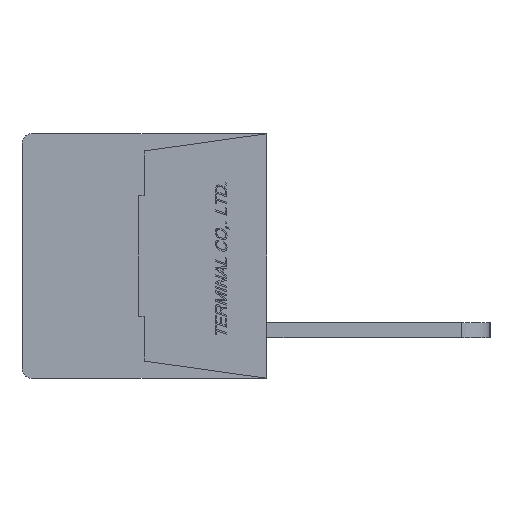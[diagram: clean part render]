
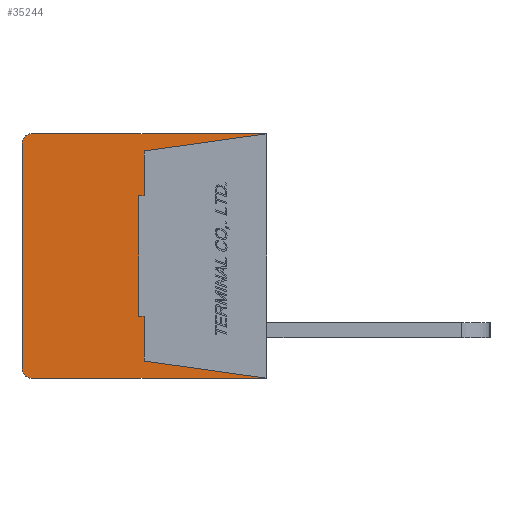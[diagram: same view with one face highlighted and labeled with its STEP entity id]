
A CAD part, left-side view. The second image highlights one B-rep face of the part: STEP entity #35244.
In plain terms, the highlighted planar face has unit normal (-1, 0, 0).
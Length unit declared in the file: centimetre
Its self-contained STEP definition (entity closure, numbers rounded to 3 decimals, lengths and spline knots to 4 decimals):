
#1820=CIRCLE('',#60349,0.05);
#1821=CIRCLE('',#60352,0.05);
#3158=VERTEX_POINT('',#49011);
#3159=VERTEX_POINT('',#49013);
#3160=VERTEX_POINT('',#49017);
#3161=VERTEX_POINT('',#49021);
#3162=VERTEX_POINT('',#49025);
#3163=VERTEX_POINT('',#49029);
#3164=VERTEX_POINT('',#49033);
#3165=VERTEX_POINT('',#49035);
#3166=VERTEX_POINT('',#49037);
#3167=VERTEX_POINT('',#49039);
#3168=VERTEX_POINT('',#49041);
#3169=VERTEX_POINT('',#49043);
#6868=VECTOR('',#40878,1.);
#6872=VECTOR('',#40887,1.);
#6875=VECTOR('',#40895,1.);
#6876=VECTOR('',#40897,1.);
#6877=VECTOR('',#40898,1.);
#6878=VECTOR('',#40899,1.);
#6879=VECTOR('',#40900,1.);
#6880=VECTOR('',#40901,1.);
#6881=VECTOR('',#40902,1.);
#6882=VECTOR('',#40903,1.);
#10988=LINE('',#49012,#6868);
#10992=LINE('',#49022,#6872);
#10995=LINE('',#49030,#6875);
#10996=LINE('',#49032,#6876);
#10997=LINE('',#49034,#6877);
#10998=LINE('',#49036,#6878);
#10999=LINE('',#49038,#6879);
#11000=LINE('',#49040,#6880);
#11001=LINE('',#49042,#6881);
#11002=LINE('',#49044,#6882);
#15592=EDGE_CURVE('',#3159,#3158,#10988,.T.);
#15595=EDGE_CURVE('',#3160,#3158,#1820,.T.);
#15597=EDGE_CURVE('',#3160,#3161,#10992,.T.);
#15599=EDGE_CURVE('',#3162,#3161,#1821,.T.);
#15601=EDGE_CURVE('',#3162,#3163,#10995,.T.);
#15602=EDGE_CURVE('',#3164,#3159,#10996,.T.);
#15603=EDGE_CURVE('',#3163,#3165,#10997,.T.);
#15604=EDGE_CURVE('',#3165,#3166,#10998,.T.);
#15605=EDGE_CURVE('',#3166,#3167,#10999,.T.);
#15606=EDGE_CURVE('',#3167,#3168,#11000,.T.);
#15607=EDGE_CURVE('',#3168,#3169,#11001,.T.);
#15608=EDGE_CURVE('',#3169,#3164,#11002,.T.);
#22725=ORIENTED_EDGE('',*,*,#15602,.T.);
#22726=ORIENTED_EDGE('',*,*,#15592,.T.);
#22727=ORIENTED_EDGE('',*,*,#15595,.F.);
#22728=ORIENTED_EDGE('',*,*,#15597,.T.);
#22729=ORIENTED_EDGE('',*,*,#15599,.F.);
#22730=ORIENTED_EDGE('',*,*,#15601,.T.);
#22731=ORIENTED_EDGE('',*,*,#15603,.T.);
#22732=ORIENTED_EDGE('',*,*,#15604,.T.);
#22733=ORIENTED_EDGE('',*,*,#15605,.T.);
#22734=ORIENTED_EDGE('',*,*,#15606,.T.);
#22735=ORIENTED_EDGE('',*,*,#15607,.T.);
#22736=ORIENTED_EDGE('',*,*,#15608,.T.);
#30658=EDGE_LOOP('',(#22725,#22726,#22727,#22728,#22729,#22730,#22731,#22732,
#22733,#22734,#22735,#22736));
#33018=FACE_BOUND('',#30658,.T.);
#35244=ADVANCED_FACE('',(#33018),#37162,.F.);
#37162=PLANE('',#60354);
#40878=DIRECTION('',(0.,1.,0.));
#40883=DIRECTION('',(1.,0.,0.));
#40884=DIRECTION('',(0.,0.,-0.05));
#40887=DIRECTION('',(0.,0.,-1.));
#40891=DIRECTION('',(1.,0.,0.));
#40892=DIRECTION('',(0.,0.,-0.05));
#40895=DIRECTION('',(0.,-1.,0.));
#40896=DIRECTION('',(1.,0.,0.));
#40897=DIRECTION('',(0.,-0.99,0.139));
#40898=DIRECTION('',(0.,0.99,0.139));
#40899=DIRECTION('',(0.,0.,1.));
#40900=DIRECTION('',(0.,1.,0.));
#40901=DIRECTION('',(0.,0.,1.));
#40902=DIRECTION('',(0.,-1.,0.));
#40903=DIRECTION('',(0.,0.,1.));
#49011=CARTESIAN_POINT('',(-1.,1.23,0.64));
#49012=CARTESIAN_POINT('',(-1.,0.,0.64));
#49013=CARTESIAN_POINT('',(-1.,0.,0.64));
#49017=CARTESIAN_POINT('',(-1.,1.28,0.59));
#49018=CARTESIAN_POINT('',(-1.,1.23,0.59));
#49021=CARTESIAN_POINT('',(-1.,1.28,-0.59));
#49022=CARTESIAN_POINT('',(-1.,1.28,0.59));
#49025=CARTESIAN_POINT('',(-1.,1.23,-0.64));
#49026=CARTESIAN_POINT('',(-1.,1.23,-0.59));
#49029=CARTESIAN_POINT('',(-1.,0.,-0.64));
#49030=CARTESIAN_POINT('',(-1.,1.23,-0.64));
#49031=CARTESIAN_POINT('',(-1.,0.6345,0.));
#49032=CARTESIAN_POINT('',(-1.,0.64,0.55));
#49033=CARTESIAN_POINT('',(-1.,0.64,0.55));
#49034=CARTESIAN_POINT('',(-1.,0.,-0.64));
#49035=CARTESIAN_POINT('',(-1.,0.64,-0.55));
#49036=CARTESIAN_POINT('',(-1.,0.64,-0.55));
#49037=CARTESIAN_POINT('',(-1.,0.64,-0.315));
#49038=CARTESIAN_POINT('',(-1.,0.64,-0.315));
#49039=CARTESIAN_POINT('',(-1.,0.67,-0.315));
#49040=CARTESIAN_POINT('',(-1.,0.67,-0.315));
#49041=CARTESIAN_POINT('',(-1.,0.67,0.315));
#49042=CARTESIAN_POINT('',(-1.,0.67,0.315));
#49043=CARTESIAN_POINT('',(-1.,0.64,0.315));
#49044=CARTESIAN_POINT('',(-1.,0.64,0.315));
#60349=AXIS2_PLACEMENT_3D('',#49018,#40883,#40884);
#60352=AXIS2_PLACEMENT_3D('',#49026,#40891,#40892);
#60354=AXIS2_PLACEMENT_3D('',#49031,#40896,$);
